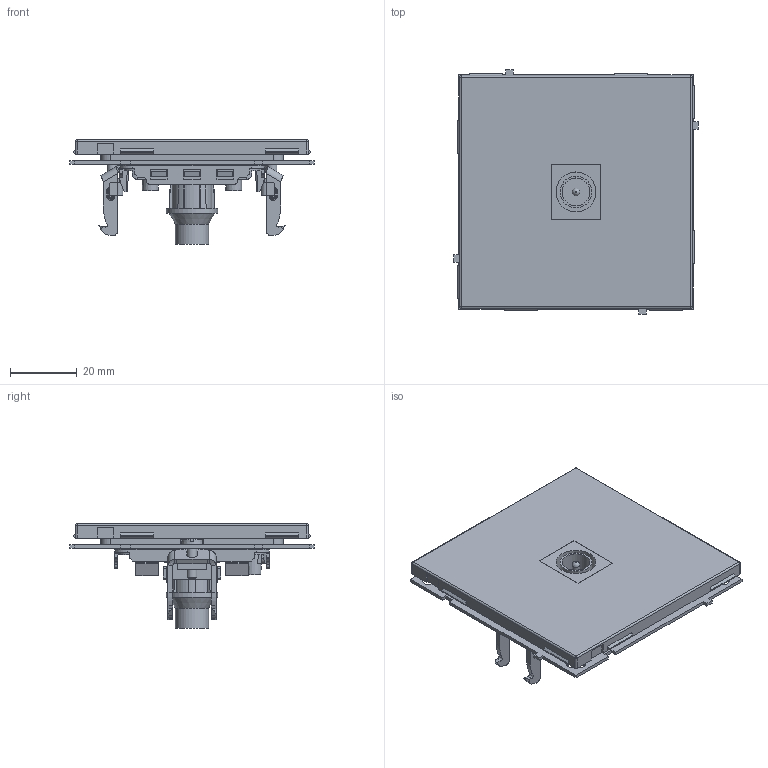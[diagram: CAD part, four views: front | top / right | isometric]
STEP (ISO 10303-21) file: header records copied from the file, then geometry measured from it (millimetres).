
FILE_DESCRIPTION (( 'STEP AP203' ), '1' );
FILE_NAME ('7000503.STEP', '2025-12-22T14:01:31', ( '' ), ( '' ), 'SwSTEP 2.0', 'SolidWorks 2022', '' );
FILE_SCHEMA (( 'CONFIG_CONTROL_DESIGN' ));
Length unit declared in the file: millimetre
Products named in the file (1): 7000503
Bounding box: 73.5 x 73.5 x 31.3 mm (x, y, z)
Volume: 34118.6 mm3; surface area: 25580.1 mm2
Topology: 3 solids, 5 shells, 1017 faces, 2835 edges, 1821 vertices
Faces by surface type: plane 636, cylinder 254, cone 62, torus 43, bspline 18, sphere 4
Full cylindrical faces by diameter (mm): 2.3 x1, 3 x4, 3.3 x2, 7.7 x1, 8.4 x1, 9.3 x1, 9.5 x1, 10 x1, 12 x1, 13.8 x1, 15.5 x1
Entity records: 33277 total; most frequent: CARTESIAN_POINT 7268, ORIENTED_EDGE 5572, DIRECTION 5199, EDGE_CURVE 2786, VECTOR 1939, LINE 1939, VERTEX_POINT 1806, AXIS2_PLACEMENT_3D 1630
